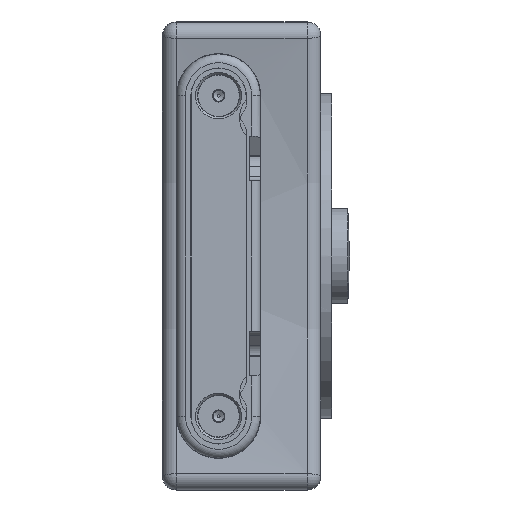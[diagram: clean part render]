
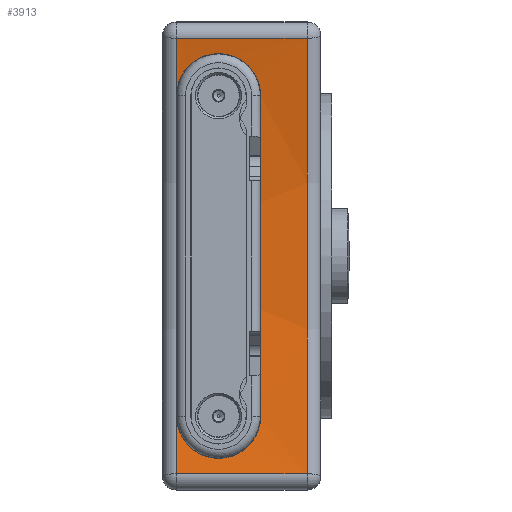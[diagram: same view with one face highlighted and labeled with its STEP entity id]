
A CAD part, left-side view. The second image highlights one B-rep face of the part: STEP entity #3913.
In plain terms, the highlighted cylindrical face has radius 139.7 mm (diameter 279.4 mm), a partial arc.
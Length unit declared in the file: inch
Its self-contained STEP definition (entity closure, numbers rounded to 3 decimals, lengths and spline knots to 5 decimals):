
#2950=CARTESIAN_POINT('',(19.93159,-18.9853,-8.31859));
#2951=VERTEX_POINT('',#2950);
#2970=CARTESIAN_POINT('',(19.93159,-18.9853,-6.33941));
#2971=VERTEX_POINT('',#2970);
#2979=CARTESIAN_POINT('',(14.52135,-18.9853,-7.329));
#2980=DIRECTION('',(0.0,1.0,0.0));
#2981=DIRECTION('',(1.0,0.0,0.0));
#2982=AXIS2_PLACEMENT_3D('',#2979,#2980,#2981);
#2983=CIRCLE('',#2982,5.5);
#2984=EDGE_CURVE('',#2971,#2951,#2983,.T.);
#3245=CARTESIAN_POINT('',(19.93159,-18.3903,-6.33941));
#3246=VERTEX_POINT('',#3245);
#3254=CARTESIAN_POINT('',(19.93159,-18.3903,-6.33941));
#3255=DIRECTION('',(0.0,-1.0,0.0));
#3256=VECTOR('',#3255,0.595);
#3257=LINE('',#3254,#3256);
#3258=EDGE_CURVE('',#3246,#2971,#3257,.T.);
#3413=CARTESIAN_POINT('',(19.93159,-18.3903,-8.31859));
#3414=VERTEX_POINT('',#3413);
#3422=CARTESIAN_POINT('',(14.52135,-18.3903,-7.329));
#3423=DIRECTION('',(0.0,-1.0,0.0));
#3424=DIRECTION('',(1.0,0.0,0.0));
#3425=AXIS2_PLACEMENT_3D('',#3422,#3423,#3424);
#3426=CIRCLE('',#3425,5.5);
#3427=EDGE_CURVE('',#3414,#3246,#3426,.T.);
#3665=CARTESIAN_POINT('',(19.93159,-18.3903,-8.31859));
#3666=DIRECTION('',(0.0,-1.0,0.0));
#3667=VECTOR('',#3666,0.595);
#3668=LINE('',#3665,#3667);
#3669=EDGE_CURVE('',#3414,#2951,#3668,.T.);
#3729=CARTESIAN_POINT('',(19.97289,-18.7738,-8.0575));
#3730=VERTEX_POINT('',#3729);
#3731=CARTESIAN_POINT('',(19.97289,-18.3918,-8.0575));
#3732=VERTEX_POINT('',#3731);
#3733=CARTESIAN_POINT('',(19.97289,-18.7738,-8.0575));
#3734=CARTESIAN_POINT('',(19.96967,-18.7738,-8.08154));
#3735=CARTESIAN_POINT('',(19.96607,-18.76898,-8.10717));
#3736=CARTESIAN_POINT('',(19.95912,-18.7494,-8.15432));
#3737=CARTESIAN_POINT('',(19.95579,-18.73464,-8.17585));
#3738=CARTESIAN_POINT('',(19.95041,-18.70067,-8.20967));
#3739=CARTESIAN_POINT('',(19.948,-18.67927,-8.22429));
#3740=CARTESIAN_POINT('',(19.94476,-18.63233,-8.24371));
#3741=CARTESIAN_POINT('',(19.94394,-18.60678,-8.2485));
#3742=CARTESIAN_POINT('',(19.94394,-18.55882,-8.2485));
#3743=CARTESIAN_POINT('',(19.94476,-18.53327,-8.24371));
#3744=CARTESIAN_POINT('',(19.948,-18.48632,-8.22429));
#3745=CARTESIAN_POINT('',(19.95041,-18.46492,-8.20967));
#3746=CARTESIAN_POINT('',(19.95579,-18.43096,-8.17585));
#3747=CARTESIAN_POINT('',(19.95912,-18.41619,-8.15432));
#3748=CARTESIAN_POINT('',(19.96607,-18.39661,-8.10717));
#3749=CARTESIAN_POINT('',(19.96967,-18.3918,-8.08154));
#3750=CARTESIAN_POINT('',(19.97289,-18.3918,-8.0575));
#3751=B_SPLINE_CURVE_WITH_KNOTS('',3,(#3733,#3734,#3735,#3736,#3737,#3738,#3739,#3740,#3741,#3742,#3743,#3744,#3745,#3746,#3747,#3748,#3749,#3750),.UNSPECIFIED.,.F.,.U.,(4,2,2,2,2,2,2,2,4),(0.2888,0.36156,0.43432,0.50626,0.57819,0.65013,0.72206,0.79482,0.86758),.UNSPECIFIED.);
#3752=EDGE_CURVE('',#3730,#3732,#3751,.T.);
#3785=CARTESIAN_POINT('',(19.97289,-18.3918,-6.6005));
#3786=VERTEX_POINT('',#3785);
#3787=CARTESIAN_POINT('',(14.52135,-18.3918,-7.329));
#3788=DIRECTION('',(0.0,-1.0,0.0));
#3789=DIRECTION('',(1.0,0.0,0.0));
#3790=AXIS2_PLACEMENT_3D('',#3787,#3788,#3789);
#3791=CIRCLE('',#3790,5.5);
#3792=EDGE_CURVE('',#3732,#3786,#3791,.T.);
#3817=CARTESIAN_POINT('',(19.97289,-18.7738,-6.6005));
#3818=VERTEX_POINT('',#3817);
#3819=CARTESIAN_POINT('',(19.97289,-18.3918,-6.6005));
#3820=CARTESIAN_POINT('',(19.96967,-18.3918,-6.57646));
#3821=CARTESIAN_POINT('',(19.96607,-18.39661,-6.55083));
#3822=CARTESIAN_POINT('',(19.95912,-18.41619,-6.50368));
#3823=CARTESIAN_POINT('',(19.95579,-18.43096,-6.48215));
#3824=CARTESIAN_POINT('',(19.95041,-18.46492,-6.44833));
#3825=CARTESIAN_POINT('',(19.948,-18.48632,-6.43371));
#3826=CARTESIAN_POINT('',(19.94476,-18.53327,-6.41429));
#3827=CARTESIAN_POINT('',(19.94394,-18.55882,-6.4095));
#3828=CARTESIAN_POINT('',(19.94394,-18.5828,-6.4095));
#3829=CARTESIAN_POINT('',(19.94394,-18.60685,-6.4095));
#3830=CARTESIAN_POINT('',(19.94477,-18.63247,-6.41432));
#3831=CARTESIAN_POINT('',(19.94802,-18.67952,-6.43384));
#3832=CARTESIAN_POINT('',(19.95044,-18.70096,-6.44854));
#3833=CARTESIAN_POINT('',(19.95583,-18.73485,-6.48244));
#3834=CARTESIAN_POINT('',(19.95916,-18.74954,-6.50392));
#3835=CARTESIAN_POINT('',(19.96609,-18.76901,-6.55097));
#3836=CARTESIAN_POINT('',(19.96968,-18.7738,-6.57653));
#3837=CARTESIAN_POINT('',(19.97289,-18.7738,-6.6005));
#3838=B_SPLINE_CURVE_WITH_KNOTS('',3,(#3819,#3820,#3821,#3822,#3823,#3824,#3825,#3826,#3827,#3828,#3829,#3830,#3831,#3832,#3833,#3834,#3835,#3836,#3837),.UNSPECIFIED.,.F.,.U.,(4,2,2,2,3,2,2,2,4),(-0.28939,-0.21663,-0.14387,-0.07193,0.0,0.07215,0.14429,0.21684,0.28939),.UNSPECIFIED.);
#3839=EDGE_CURVE('',#3786,#3818,#3838,.T.);
#3865=CARTESIAN_POINT('',(14.52135,-18.7738,-7.329));
#3866=DIRECTION('',(0.0,1.0,0.0));
#3867=DIRECTION('',(1.0,0.0,0.0));
#3868=AXIS2_PLACEMENT_3D('',#3865,#3866,#3867);
#3869=CIRCLE('',#3868,5.5);
#3870=EDGE_CURVE('',#3818,#3730,#3869,.T.);
#3896=CARTESIAN_POINT('',(14.52135,-18.3278,-7.329));
#3897=DIRECTION('',(0.,-1.0,0.));
#3898=DIRECTION('',(1.0,0.0,0.0));
#3899=AXIS2_PLACEMENT_3D('',#3896,#3897,#3898);
#3900=CYLINDRICAL_SURFACE('',#3899,5.5);
#3901=ORIENTED_EDGE('',*,*,#2984,.F.);
#3902=ORIENTED_EDGE('',*,*,#3258,.F.);
#3903=ORIENTED_EDGE('',*,*,#3427,.F.);
#3904=ORIENTED_EDGE('',*,*,#3669,.T.);
#3905=EDGE_LOOP('',(#3901,#3902,#3903,#3904));
#3906=FACE_OUTER_BOUND('',#3905,.T.);
#3907=ORIENTED_EDGE('',*,*,#3839,.T.);
#3908=ORIENTED_EDGE('',*,*,#3870,.T.);
#3909=ORIENTED_EDGE('',*,*,#3752,.T.);
#3910=ORIENTED_EDGE('',*,*,#3792,.T.);
#3911=EDGE_LOOP('',(#3907,#3908,#3909,#3910));
#3912=FACE_BOUND('',#3911,.T.);
#3913=ADVANCED_FACE('',(#3906,#3912),#3900,.F.);
